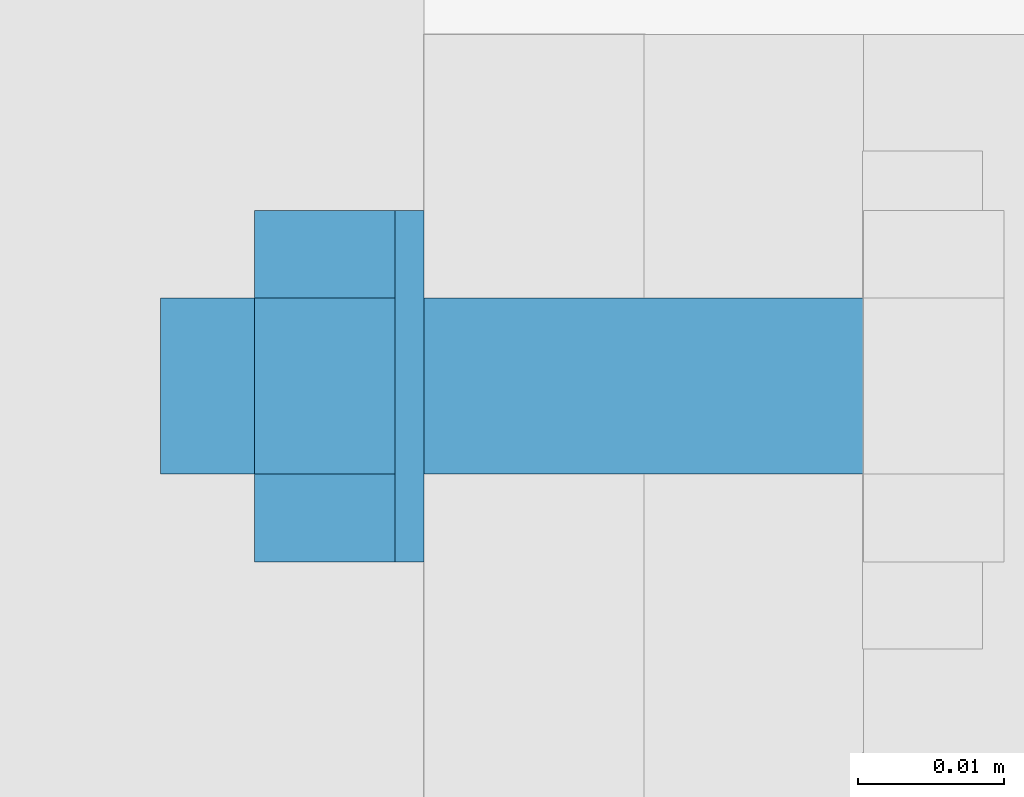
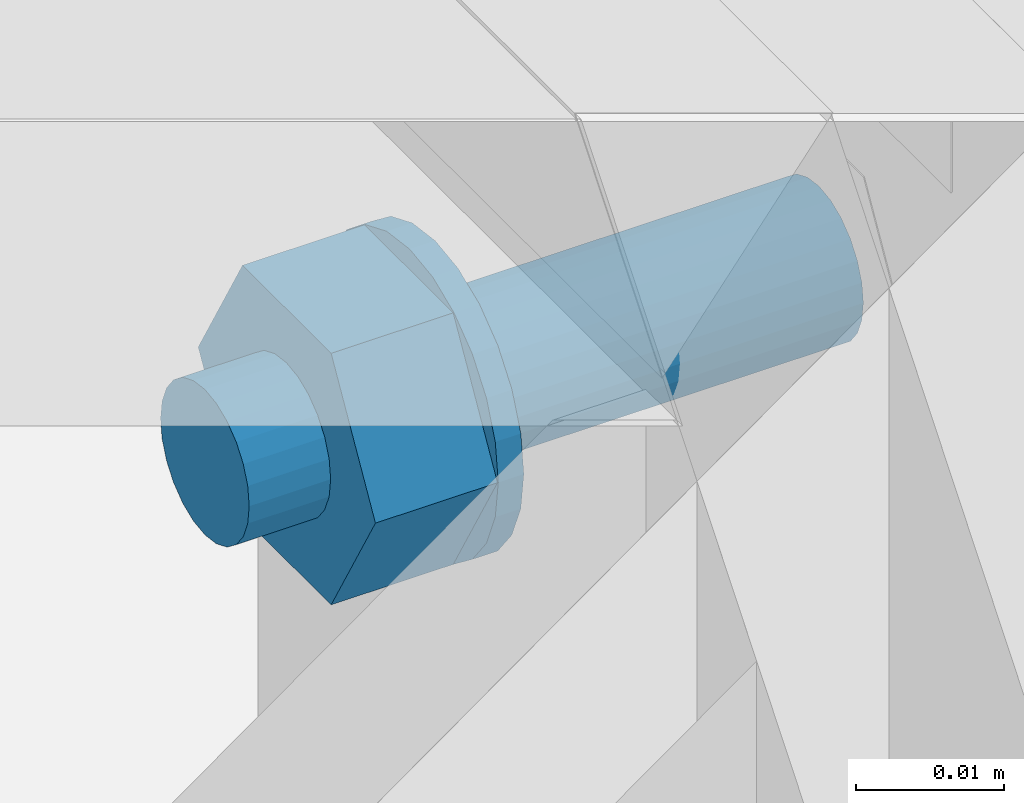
# One storey, part 54 of 66: 3 mechanical fasteners.
"""IFC4 building model written with IfcOpenShell, lengths in metres."""

from ifc_helpers import new_model, si_unit, frame, origin_with_axes, place, context, project, spatial, polyline, outline, extrude, type_object, element, save


model = new_model("IFC4")

# Units and contexts
model_context = context("Model", 3, precision=1e-05, world=origin_with_axes())
ifc_project = project(units=[si_unit("LENGTHUNIT", "METRE"), si_unit("AREAUNIT", "SQUARE_METRE"), si_unit("VOLUMEUNIT", "CUBIC_METRE"), si_unit("MASSUNIT", "GRAM", prefix="KILO"), si_unit("TIMEUNIT", "SECOND"), si_unit("PLANEANGLEUNIT", "RADIAN"), si_unit("SOLIDANGLEUNIT", "STERADIAN"), si_unit("THERMODYNAMICTEMPERATUREUNIT", "DEGREE_CELSIUS")], contexts=[model_context])

# Site, building, storey
placement_1 = place(None, origin_with_axes())
site = spatial("IfcSite", under=ifc_project, at=placement_1, Name="Italia", CompositionType="ELEMENT")
building = spatial("IfcBuilding", under=site, at=placement_1, Name="Uffici", CompositionType="ELEMENT")
storey_placement = place(None, frame((0.0, 0.0, 3.299999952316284), z_axis=(0.0, 0.0, 1.0), x_axis=(1.0, 0.0, 0.0)))
storey = spatial("IfcBuildingStorey", under=building, at=storey_placement, Name="Storey 1", CompositionType="ELEMENT", Elevation=3.299999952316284)

# Mechanical fasteners
mechanical_fastener_type_1 = type_object("IfcMechanicalFastenerType", Name="Collegamento -014_-015", PredefinedType="BOLT")
placement_2 = place(placement_1, origin_with_axes())
mechanical_fastener_1_placement = place(placement_2, origin_with_axes())
element("IfcMechanicalFastener", 1, at=mechanical_fastener_1_placement, inside=storey, type_object=mechanical_fastener_type_1, Name="Collegamento -014_-015", NominalDiameter=0.012, context=model_context, shape_type="SweptSolid", body=[
    extrude(outline(polyline([(0.0, 0.0), (-0.000204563, -0.00155282), (-0.000803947, -0.00300002), (-0.00175738, -0.00424266), (-0.00300002, -0.00519609), (-0.00444722, -0.00579548), (-0.00600004, -0.00600004), (-0.00755286, -0.00579548), (-0.00900006, -0.00519609), (-0.0102427, -0.00424266), (-0.0111961, -0.00300002), (-0.0117955, -0.00155282), (-0.0120001, 0.0), (-0.0117955, 0.00155282), (-0.0111961, 0.00300002), (-0.0102427, 0.00424266), (-0.00900006, 0.00519609), (-0.00755286, 0.00579548), (-0.00600004, 0.00600004), (-0.00444722, 0.00579548), (-0.00300002, 0.00519609), (-0.00175738, 0.00424266), (-0.000803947, 0.00300002), (-0.000204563, 0.00155282), (0.0, 0.0)])), frame((9.557, 3.63533, 3.266), z_axis=(1.0, 0.0, 0.0), x_axis=(0.0, 1.0, 0.0)), (0.0, 0.0, 1.0), 0.0479994),
])
mechanical_fastener_type_2 = type_object("IfcMechanicalFastenerType", Name="Collegamento -014_-015", PredefinedType="BOLT")
mechanical_fastener_2_placement = place(placement_2, origin_with_axes())
element("IfcMechanicalFastener", 2, at=mechanical_fastener_2_placement, inside=storey, type_object=mechanical_fastener_type_2, Name="Collegamento -014_-015", NominalDiameter=0.0119999, context=model_context, shape_type="SweptSolid", body=[
    extrude(outline(polyline([(0.0, 0.0), (-0.0120001, 0.0), (-0.0180001, 0.0103922), (-0.0120001, 0.0207846), (0.0, 0.0207846), (0.00600004, 0.0103922), (0.0, 0.0)])), frame((9.5634, 3.63533, 3.25561), z_axis=(1.0, 0.0, 0.0), x_axis=(0.0, 1.0, 0.0)), (0.0, 0.0, 1.0), 0.00959969),
])
mechanical_fastener_type_3 = type_object("IfcMechanicalFastenerType", Name="Collegamento -014_-015", PredefinedType="BOLT")
mechanical_fastener_3_placement = place(placement_2, origin_with_axes())
element("IfcMechanicalFastener", 3, at=mechanical_fastener_3_placement, inside=storey, type_object=mechanical_fastener_type_3, Name="Collegamento -014_-015", NominalDiameter=0.024, context=model_context, shape_type="SweptSolid", body=[
    extrude(outline(polyline([(0.0, 0.0), (-0.000408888, -0.00310588), (-0.00160789, -0.00600004), (-0.00351477, -0.00848532), (-0.00600004, -0.0103922), (-0.00889421, -0.0115912), (-0.0120001, -0.0120001), (-0.015106, -0.0115912), (-0.0180001, -0.0103922), (-0.0204854, -0.00848532), (-0.0223923, -0.00600004), (-0.0235913, -0.00310588), (-0.0240002, 0.0), (-0.0235913, 0.00310588), (-0.0223923, 0.00600004), (-0.0204854, 0.00848532), (-0.0180001, 0.0103922), (-0.015106, 0.0115912), (-0.0120001, 0.0120001), (-0.00889421, 0.0115912), (-0.00600004, 0.0103922), (-0.00351477, 0.00848532), (-0.00160789, 0.00600004), (-0.000408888, 0.00310588), (0.0, 0.0)])), frame((9.573, 3.64133, 3.266), z_axis=(1.0, 0.0, 0.0), x_axis=(0.0, 1.0, 0.0)), (0.0, 0.0, 1.0), 0.00199986),
])

save(model, "model.ifc")
